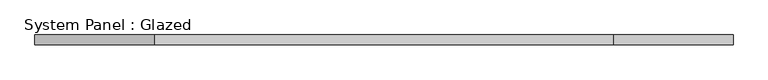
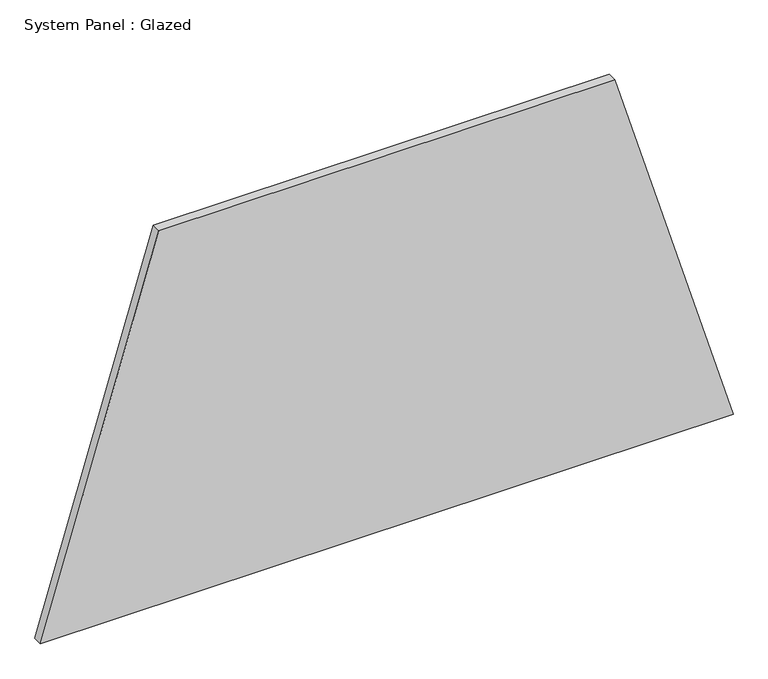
"""IFC4 building model written with IfcOpenShell, lengths in millimetres: plate geometry, System Panel : Glazed."""

from ifc_helpers import new_model, si_unit, frame, origin, place, context, project, spatial, polyline, outline, extrude, source, transform, mapped, element, save


def system_panel_glazed_5beef723(model_context):
    return source(origin(), model_context, "Body", "SweptSolid", [
        extrude(outline(polyline([(0.0, -895.3208171), (0.0, 895.3208171), (1022.0392401, 589.5463385), (1022.0392401, -589.5463385), (0.0, -895.3208171)])), frame((0.0, -49.5, 0.0), z_axis=(0.0, 1.0, 0.0), x_axis=(0.0, 0.0, 1.0)), (0.0, 0.0, 1.0), 25.0),
    ])


if __name__ == "__main__":
    model = new_model("IFC4")
    model_context = context("Model", 3, world=origin())
    ifc_project = project(units=[si_unit("LENGTHUNIT", "METRE", prefix="MILLI")], contexts=[model_context])
    site = spatial("IfcSite", under=ifc_project)
    building = spatial("IfcBuilding", under=site)
    placement = place(None, origin())
    system_panel_glazed_shape = system_panel_glazed_5beef723(model_context)
    element("IfcPlate", 1, ObjectType="System Panel : Glazed", at=placement, inside=building, context=model_context, shape_type="MappedRepresentation", body=[
        mapped(system_panel_glazed_shape, transform((0.0, 0.0, 0.0), x_axis=(1.0, 0.0, 0.0), y_axis=(0.0, 1.0, 0.0), z_axis=(0.0, 0.0, 1.0))),
    ])
    save(model, "model.ifc")
